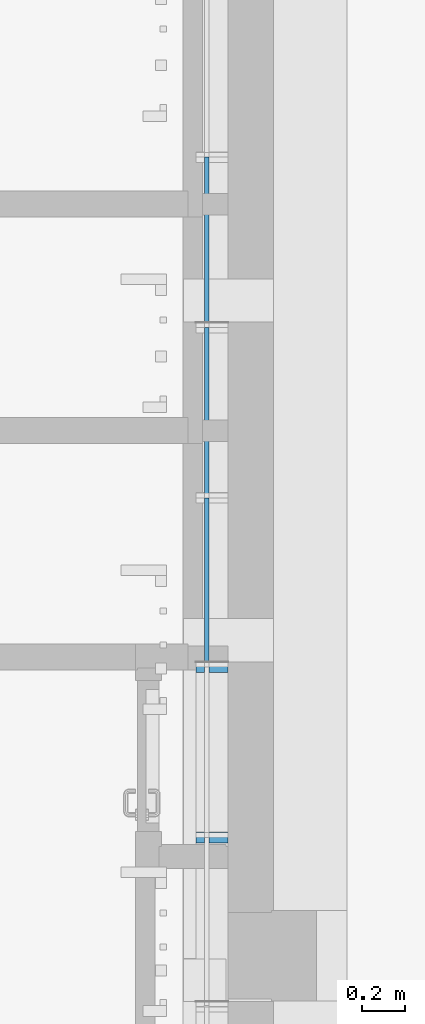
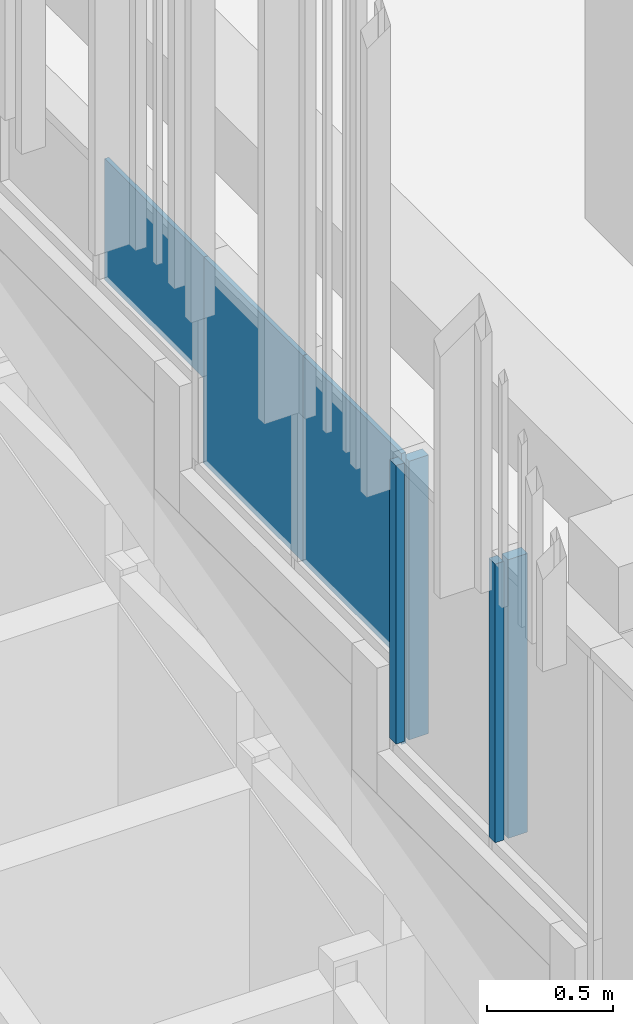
# One storey, part 32 of 390: 5 discrete accessories, 1 element without a shape of its own.
"""IFC2X3 building model written with IfcOpenShell, lengths in millimetres."""

from ifc_helpers import new_model, entity, si_unit, converted_unit, derived_unit, money_unit, direction, frame, origin_with_axes, place, context, subcontext, project, spatial, polyline, outline, extrude, material, material_list, type_object, element, aggregate, save


model = new_model("IFC2X3")

# Units and contexts
model_context = context("Model", 3, precision=1e-05, world=origin_with_axes(), true_north=direction((0.0, 1.0)))
body_context = subcontext(model_context, "Body", "Model", "MODEL_VIEW")
ifc_project = project(units=[si_unit("LENGTHUNIT", "METRE", prefix="MILLI"), si_unit("AREAUNIT", "SQUARE_METRE"), si_unit("VOLUMEUNIT", "CUBIC_METRE"), converted_unit("PLANEANGLEUNIT", "DEGREE", entity("IfcPlaneAngleMeasure", 0.0174532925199), si_unit("PLANEANGLEUNIT", "RADIAN"), dimensions=[0, 0, 0, 0, 0, 0, 0]), si_unit("SOLIDANGLEUNIT", "STERADIAN"), money_unit("EUR"), converted_unit("TIMEUNIT", "Year", entity("IfcTimeMeasure", 31556926.0), si_unit("TIMEUNIT", "SECOND"), dimensions=[0, 0, 1, 0, 0, 0, 0]), si_unit("MASSUNIT", "GRAM", prefix="KILO"), si_unit("THERMODYNAMICTEMPERATUREUNIT", "DEGREE_CELSIUS"), si_unit("LUMINOUSINTENSITYUNIT", "LUMEN"), si_unit("ENERGYUNIT", "JOULE", prefix="MEGA"), derived_unit("THERMALCONDUCTANCEUNIT", [(si_unit("POWERUNIT", "WATT"), 1), (si_unit("LENGTHUNIT", "METRE"), -1), (si_unit("THERMODYNAMICTEMPERATUREUNIT", "KELVIN"), -1)]), derived_unit("SPECIFICHEATCAPACITYUNIT", [(si_unit("ENERGYUNIT", "JOULE"), 1), (si_unit("MASSUNIT", "GRAM", prefix="KILO"), -1), (si_unit("THERMODYNAMICTEMPERATUREUNIT", "KELVIN"), -1)]), derived_unit("MASSDENSITYUNIT", [(si_unit("MASSUNIT", "GRAM", prefix="KILO"), 1), (si_unit("VOLUMEUNIT", "CUBIC_METRE"), -1)])], contexts=[model_context])

# Site, building, storey
site_placement = place(None, origin_with_axes())
site = spatial("IfcSite", under=ifc_project, at=site_placement, Name="Site", CompositionType="ELEMENT")
building_placement = place(site_placement, origin_with_axes())
building = spatial("IfcBuilding", under=site, at=building_placement, Name="Building", CompositionType="ELEMENT")
storey_placement = place(building_placement, origin_with_axes())
storey = spatial("IfcBuildingStorey", under=building, at=storey_placement, Name="1 korrus", CompositionType="ELEMENT", Elevation=0.0)

# Curtain wall, discrete accessories
curtain_wall_type = type_object("IfcCurtainWallType", Name="KLF-14", PredefinedType="NOTDEFINED")
curtain_wall_placement = place(storey_placement, frame((122599.999993, 59672.5295083, -0.000201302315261), z_axis=(0.0, 0.0, 1.0), x_axis=(1.0, 0.0, 0.0)))
curtain_wall = element("IfcCurtainWall", 1, at=curtain_wall_placement, inside=storey, type_object=curtain_wall_type, Name="Klaasfassaad")
ifc_material_1 = material(Name="Klaas")
discrete_accessory_type_1 = type_object("IfcDiscreteAccessoryType", Name="Distinct Panel 785 x 1415 x 20")
discrete_accessory_1_placement = place(curtain_wall_placement, frame((-2.68045141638e-07, 1574.99997289, 3502.85709883), z_axis=(0.0, 0.0, 1.0), x_axis=(1.70186299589e-10, -1.0, 0.0)))
discrete_accessory_1 = element("IfcDiscreteAccessory", 2, at=discrete_accessory_1_placement, type_object=discrete_accessory_type_1, material=ifc_material_1, Name="KLF-14 klaaspakett", context=body_context, shape_type="SweptSolid", body=[
    extrude(outline(polyline([(-550.470510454, -902.142755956), (234.52949215, -902.142755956), (234.52949215, 512.857071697), (229.960675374, 512.857071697), (229.960675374, 102.85702587), (-550.470510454, 102.857004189), (-550.470510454, -902.142755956)])), frame((0.0, -9.99999999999, 0.0), z_axis=(0.0, 1.0, 0.0), x_axis=(1.0, 0.0, 0.0)), (0.0, 0.0, 1.0), 20.0),
])
discrete_accessory_type_2 = type_object("IfcDiscreteAccessoryType", Name="Distinct Panel 790 x 1005 x 20")
discrete_accessory_2_placement = place(curtain_wall_placement, frame((-4.16264356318e-07, 2446.01297207, 3797.99996642), z_axis=(0.0, 0.0, 1.0), x_axis=(1.70170488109e-10, -1.0, 0.0)))
discrete_accessory_2 = element("IfcDiscreteAccessory", 3, at=discrete_accessory_2_placement, type_object=discrete_accessory_type_2, material=ifc_material_1, Name="KLF-14 klaaspakett", context=body_context, shape_type="SweptSolid", body=[
    extrude(outline(polyline([(-469.457514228, -606.999897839), (320.542478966, -606.999897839), (320.542478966, 397.999868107), (-469.457514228, 397.999961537), (-469.457514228, -606.999897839)])), frame((0.0, -10.0, 0.0), z_axis=(0.0, 1.0, 0.0), x_axis=(1.0, 0.0, 0.0)), (0.0, 0.0, 1.0), 20.0),
])
discrete_accessory_3_placement = place(curtain_wall_placement, frame((-5.36289235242e-07, 3151.42847973, 3797.14284618), z_axis=(0.0, 0.0, 1.0), x_axis=(1.70188476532e-10, -1.0, 0.0)))
discrete_accessory_3 = element("IfcDiscreteAccessory", 4, at=discrete_accessory_3_placement, type_object=discrete_accessory_type_2, material=ifc_material_1, Name="KLF-14 klaaspakett", context=body_context, shape_type="SweptSolid", body=[
    extrude(outline(polyline([(-554.042006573, -607.857018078), (235.957986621, -607.857018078), (235.957986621, 397.142841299), (231.389320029, 397.142841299), (231.389320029, -17.8571922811), (-554.042006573, -17.8572234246), (-554.042006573, -607.857018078)])), frame((0.0, -10.0, 0.0), z_axis=(0.0, 1.0, 0.0), x_axis=(1.0, 0.0, 0.0)), (0.0, 0.0, 1.0), 20.0),
])
ifc_material_2 = material(Name="Aluminium MUST")
ifc_material_list = material_list([ifc_material_2, ifc_material_2])
discrete_accessory_type_3 = type_object("IfcDiscreteAccessoryType", Name="50 x 150")
discrete_accessory_4_placement = place(curtain_wall_placement, frame((-9.36637434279e-08, 550.470489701, 2970.00002422), z_axis=(0.0, 0.0, 1.0), x_axis=(1.70178336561e-10, -1.0, 0.0)))
discrete_accessory_4 = element("IfcDiscreteAccessory", 5, at=discrete_accessory_4_placement, type_object=discrete_accessory_type_3, material=ifc_material_list, Name="KLF-14 profiil", context=body_context, shape_type="SweptSolid", body=[
    extrude(outline(polyline([(100.000000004, -24.999999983), (99.9999999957, 25.000000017), (9.99999999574, 25.0000000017), (10.0000000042, -24.9999999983), (100.000000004, -24.999999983)])), frame((0.0, 0.0, 50.0000037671), z_axis=(0.0, 0.0, 1.0), x_axis=(1.70178336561e-10, 1.0, 0.0)), (0.0, 0.0, 1.0), 1354.99983433),
    extrude(outline(polyline([(-50.0000000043, 24.9999999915), (-49.9999999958, -25.0000000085), (-9.99999999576, -25.0000000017), (-10.0000000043, 24.9999999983), (-50.0000000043, 24.9999999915)])), frame((0.0, 0.0, 49.9999811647), z_axis=(0.0, 0.0, 1.0), x_axis=(1.70178336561e-10, 1.0, 0.0)), (0.0, 0.0, 1.0), 1354.99985693),
])
discrete_accessory_5_placement = place(curtain_wall_placement, frame((-2.28112639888e-07, 1340.4704897, 2970.00003461), z_axis=(0.0, 0.0, 1.0), x_axis=(1.70187388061e-10, -1.0, 0.0)))
discrete_accessory_5 = element("IfcDiscreteAccessory", 6, at=discrete_accessory_5_placement, type_object=discrete_accessory_type_3, material=ifc_material_list, Name="KLF-14 profiil", context=body_context, shape_type="SweptSolid", body=[
    extrude(outline(polyline([(100.000000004, -24.999999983), (99.9999999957, 25.000000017), (9.99999999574, 25.0000000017), (10.0000000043, -24.9999999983), (100.000000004, -24.999999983)])), frame((0.0, 0.0, 50.0), z_axis=(0.0, 0.0, 1.0), x_axis=(1.70187388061e-10, 1.0, 0.0)), (0.0, 0.0, 1.0), 1354.9998277),
    extrude(outline(polyline([(-50.0000000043, 24.9999999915), (-49.9999999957, -25.0000000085), (-9.99999999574, -25.0000000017), (-10.0000000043, 24.9999999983), (-50.0000000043, 24.9999999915)])), frame((0.0, 0.0, 50.0), z_axis=(0.0, 0.0, 1.0), x_axis=(1.70187388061e-10, 1.0, 0.0)), (0.0, 0.0, 1.0), 1354.9998277),
])
aggregate(curtain_wall, [discrete_accessory_1, discrete_accessory_2, discrete_accessory_3, discrete_accessory_4, discrete_accessory_5])

save(model, "model.ifc")
